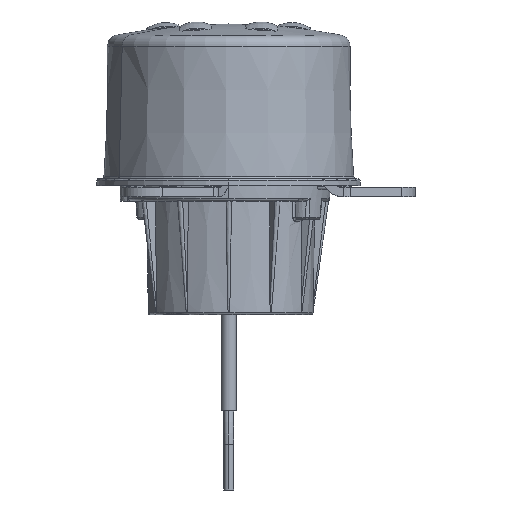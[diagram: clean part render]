
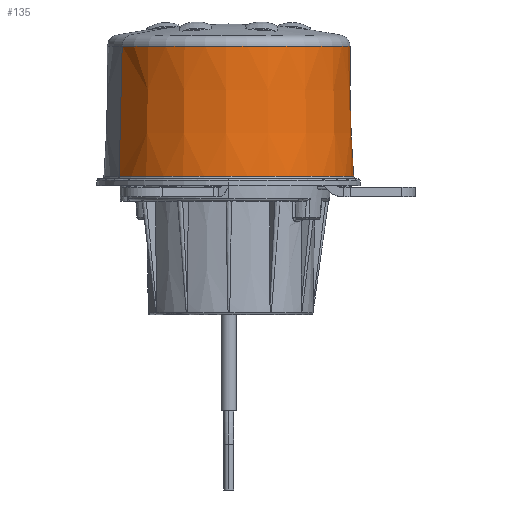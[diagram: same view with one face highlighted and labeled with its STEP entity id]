
A CAD part, left-side view. The second image highlights one B-rep face of the part: STEP entity #135.
In plain terms, the highlighted conical face has half-angle 1.5 degrees and reference radius 26.634 mm.
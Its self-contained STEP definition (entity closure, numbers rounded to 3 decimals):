
#83=AXIS2_PLACEMENT_3D('Circle Axis2P3D',#81,#82,$) ;
#96=AXIS2_PLACEMENT_3D('Cone Axis2P3D',#93,#94,#95) ;
#126=AXIS2_PLACEMENT_3D('Circle Axis2P3D',#124,#125,$) ;
#49=CARTESIAN_POINT('Vertex',(-13.153,24.077,4.41)) ;
#56=CARTESIAN_POINT('Vertex',(13.153,-24.077,4.41)) ;
#81=CARTESIAN_POINT('Axis2P3D Location',(0.,0.,4.41)) ;
#93=CARTESIAN_POINT('Axis2P3D Location',(0.,0.,35.03)) ;
#98=CARTESIAN_POINT('Line Origine',(-12.989,23.776,17.515)) ;
#102=CARTESIAN_POINT('Vertex',(-12.794,23.419,33.054)) ;
#109=CARTESIAN_POINT('Vertex',(12.794,-23.419,33.054)) ;
#112=CARTESIAN_POINT('Line Origine',(12.989,-23.776,17.515)) ;
#124=CARTESIAN_POINT('Axis2P3D Location',(0.,0.,33.054)) ;
#82=DIRECTION('Axis2P3D Direction',(0.,-0.,-1.)) ;
#94=DIRECTION('Axis2P3D Direction',(-0.,-0.,-1.)) ;
#95=DIRECTION('Axis2P3D XDirection',(-0.479,0.878,0.)) ;
#99=DIRECTION('Vector Direction',(-0.013,0.023,-1.)) ;
#113=DIRECTION('Vector Direction',(0.013,-0.023,-1.)) ;
#125=DIRECTION('Axis2P3D Direction',(0.,0.,-1.)) ;
#100=VECTOR('Line Direction',#99,1.) ;
#114=VECTOR('Line Direction',#113,1.) ;
#130=ORIENTED_EDGE('',*,*,#116,.T.) ;
#131=ORIENTED_EDGE('',*,*,#128,.F.) ;
#132=ORIENTED_EDGE('',*,*,#104,.F.) ;
#133=ORIENTED_EDGE('',*,*,#85,.T.) ;
#135=ADVANCED_FACE('PartBody',(#134),#97,.T.) ;
#84=CIRCLE('generated circle',#83,27.436) ;
#127=CIRCLE('generated circle',#126,26.686) ;
#97=CONICAL_SURFACE('Cone',#96,26.634,0.026) ;
#85=EDGE_CURVE('',#50,#57,#84,.F.) ;
#104=EDGE_CURVE('',#50,#103,#101,.F.) ;
#116=EDGE_CURVE('',#57,#110,#115,.F.) ;
#128=EDGE_CURVE('',#103,#110,#127,.F.) ;
#129=EDGE_LOOP('',(#130,#131,#132,#133)) ;
#134=FACE_OUTER_BOUND('',#129,.T.) ;
#101=LINE('Line',#98,#100) ;
#115=LINE('Line',#112,#114) ;
#50=VERTEX_POINT('',#49) ;
#57=VERTEX_POINT('',#56) ;
#103=VERTEX_POINT('',#102) ;
#110=VERTEX_POINT('',#109) ;
